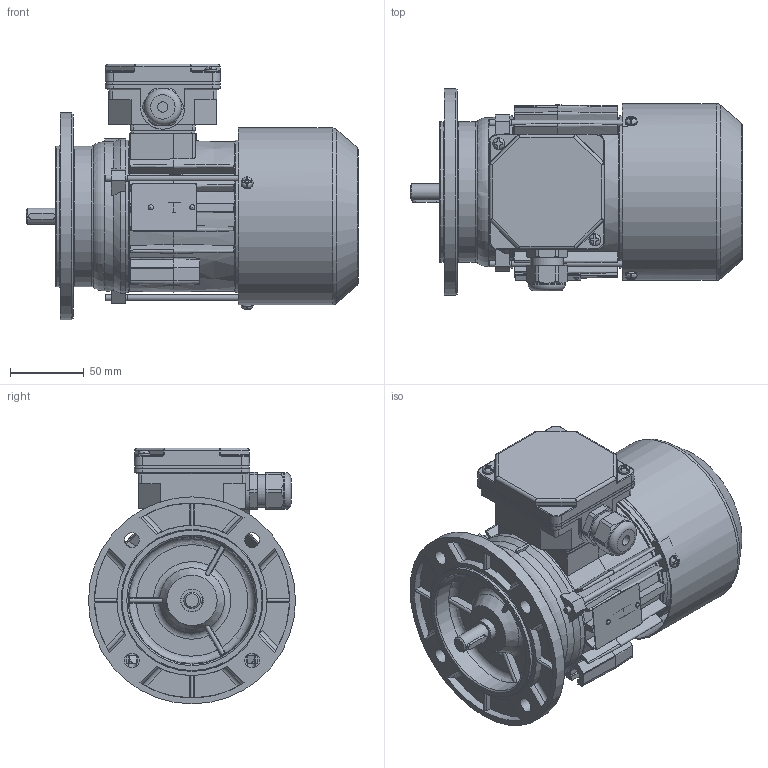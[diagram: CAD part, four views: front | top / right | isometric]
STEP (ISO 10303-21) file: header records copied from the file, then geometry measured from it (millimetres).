
FILE_DESCRIPTION( ( 'Unknown' ), '1' );
FILE_NAME( 'G:/Poczta Tk-1/STP/w.m.63/Sh63/SKh63-C.stp', 'Unknown', ( 'K. Szlosek' ), ( 'BESEL S.A.' ), 'PSStep 17.0.49', 'Unknown', ' ' );
FILE_SCHEMA( ( 'AUTOMOTIVE_DESIGN { 1 0 10303 214 1 1 1 1 }' ) );
Length unit declared in the file: millimetre
Products named in the file (29): Assem1; K3-9973 Kadłub ze stojanem wykończonym Sh63-C; K3-5320 Tarcza łożyskowa P Sg63; K4-2320 Uszczelka nr 1 Sh71,80; Wpust A4x4x18; K3-5321 osłona przewietrznika Sg63; K4-2820 Uszczelka nr 2 Sh71,80; K2-0860 Pokrywka skrzynki zaciskowej; Wkręt samogwintujący M4x16; K2-1769 Przewietrznik Sg63; Wkręt samogwintujący M4x8; Nitokołek A 2x6; K3-9974 wał Sh63-C standard; K2-0859 Podstawa skrzynki 6-cio zaciskowej; Łożysko 6202; Dławnica M20x1,5; Śruba ściągająca E_M4x100; Tabliczka znamionowa 32x44; K1-1110 Tarcza kołnierzowa nowa SKg63-..
Assembly tree (45 placements, depth 2):
  Assem1
    K3-9973 Kadłub ze stojanem wykończonym Sh63-C
    K3-5320 Tarcza łożyskowa P Sg63
    K4-2320 Uszczelka nr 1 Sh71,80
    Wpust A4x4x18
    K3-5321 osłona przewietrznika Sg63
    K4-2820 Uszczelka nr 2 Sh71,80
    K2-0860 Pokrywka skrzynki zaciskowej
    Wkręt samogwintujący M4x16  x2
    K2-1769 Przewietrznik Sg63
    Wkręt samogwintujący M4x8  x3
    Nitokołek A 2x6  x2
    K3-9974 wał Sh63-C standard
    K2-0859 Podstawa skrzynki 6-cio zaciskowej
    Łożysko 6202  x2
    Łożysko 6202  x2
    Łożysko 6202  x2
    Łożysko 6202  x2
    Łożysko 6202  x2
    Łożysko 6202  x2
    Łożysko 6202  x2
    Łożysko 6202  x2
    Łożysko 6202  x2
    Łożysko 6202  x2
    Łożysko 6202  x2
    Dławnica M20x1,5
    Śruba ściągająca E_M4x100  x3
    Tabliczka znamionowa 32x44
    K1-1110 Tarcza kołnierzowa nowa SKg63-..
Bounding box: 224.5 x 140 x 173 mm (x, y, z)
Volume: 544235.5 mm3; surface area: 367438.9 mm2
Topology: 45 solids, 63 shells, 1839 faces, 5044 edges, 3273 vertices
Faces by surface type: plane 919, cylinder 545, cone 128, torus 112, bspline 96, sphere 39
Full cylindrical faces by diameter (mm): 2 x2, 2.4 x2, 3.3 x3, 3.7 x10, 4 x8, 4.5 x4, 4.8 x4, 5 x4, 7 x4, 8 x6, 10 x4, 11 x1, 12.9 x1, 13.1 x1, 13.5 x1, 15 x4, 15.4 x2, 18.376 x1, 18.38 x1, 19 x2, 19.5 x1, 20 x2, 20.1 x1, 21.52 x4, 22.3 x1, 25 x1, 28 x2, 28.48 x4, 31 x2, 35 x4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
Entity records: 78887 total; most frequent: CARTESIAN_POINT 25002, ORIENTED_EDGE 8658, DIRECTION 8352, EDGE_CURVE 4329, AXIS2_PLACEMENT_3D 3111, VERTEX_POINT 2953, LINE 2130, VECTOR 2130
